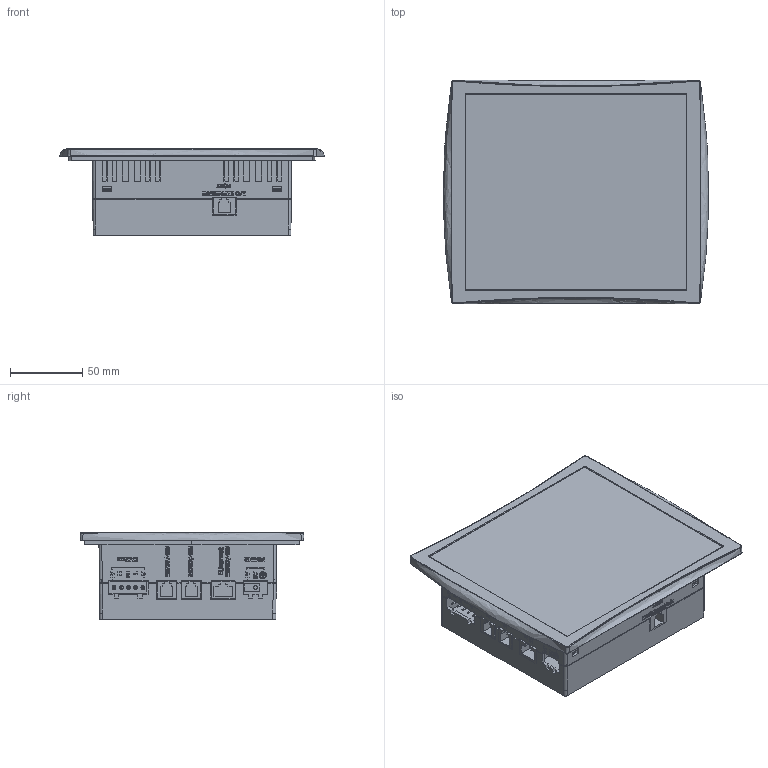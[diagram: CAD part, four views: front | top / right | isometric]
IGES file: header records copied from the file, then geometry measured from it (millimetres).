
Start section: SolidWorks IGES file using analytic representation for surfaces
Global section: file name: Z:\Products\V230_260_280_290_500\Mechanic\V230\CAD Files\3D Files\IGES\V230-13-B20B.IGS; native system: SolidWorks 2011; preprocessor: SolidWorks 2011; author: baraki; date: 120627.170324; units: millimetre
Bounding box: 184 x 155 x 60.22 mm (x, y, z)
Surface area: 155588.2 mm2 (no closed solid volume)
Topology: 0 solids, 0 shells, 2389 faces, 22607 edges, 22591 vertices
Faces by surface type: bspline 2145, revolution 244
